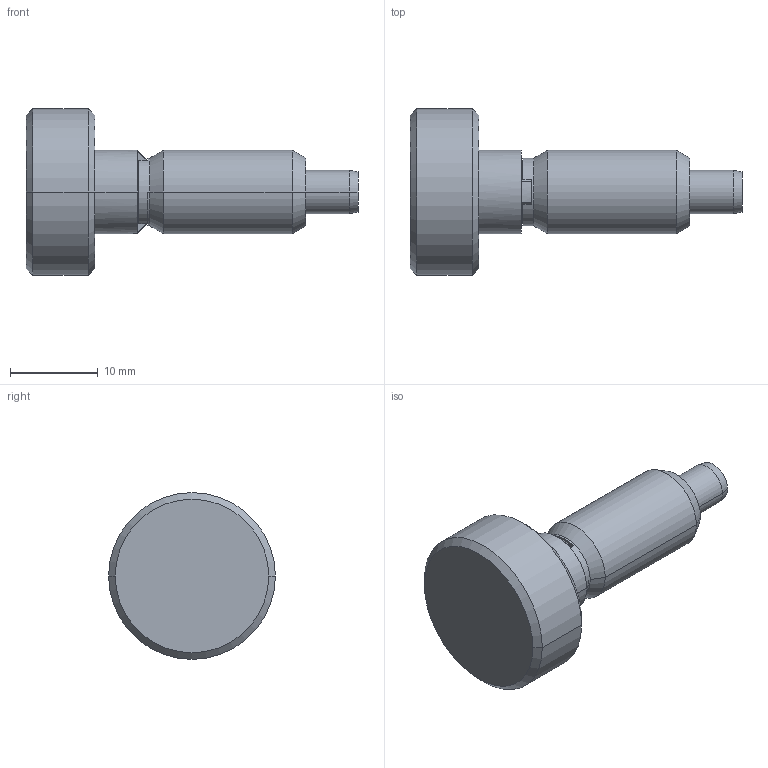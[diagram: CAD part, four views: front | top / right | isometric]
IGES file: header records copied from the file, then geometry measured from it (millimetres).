
Start section:  PTC IGES file: slm10-part.igs
Global section: file name: slm10-part.igs; native system: Pro/ENGINEER by Parametric Technology Corporation; preprocessor: 2002350; author: chant; organization: Unknown; date: 061214.162342; units: inch
Bounding box: 37.92 x 19.05 x 19.05 mm (x, y, z)
Surface area: 2433.5 mm2 (no closed solid volume)
Topology: 0 solids, 0 shells, 54 faces, 347 edges, 431 vertices
Faces by surface type: revolution 32, bspline 22
